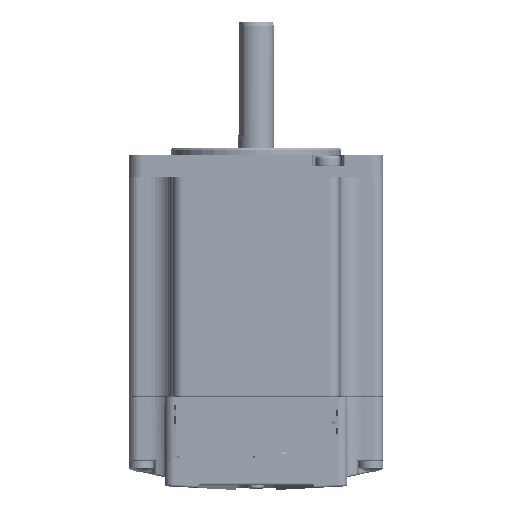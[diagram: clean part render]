
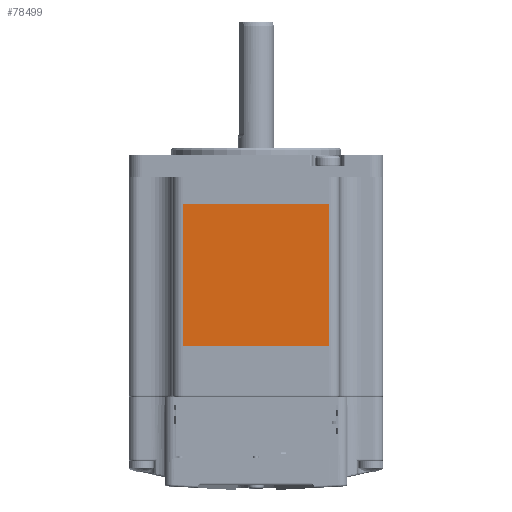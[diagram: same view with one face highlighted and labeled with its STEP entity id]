
A CAD part, left-side view. The second image highlights one B-rep face of the part: STEP entity #78499.
In plain terms, the highlighted planar face has unit normal (-1, 0, 0).
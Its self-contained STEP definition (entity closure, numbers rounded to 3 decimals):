
#69016=DIRECTION('',(0.,1.,0.));
#69017=VECTOR('',#69016,33.);
#69018=CARTESIAN_POINT('',(-28.6,-16.5,-16.));
#69019=LINE('',#69018,#69017);
#71536=DIRECTION('',(0.,0.,1.));
#71537=VECTOR('',#71536,32.);
#71538=CARTESIAN_POINT('',(-28.6,16.5,-16.));
#71539=LINE('',#71538,#71537);
#71540=DIRECTION('',(0.,1.,0.));
#71541=VECTOR('',#71540,33.);
#71542=CARTESIAN_POINT('',(-28.6,-16.5,16.));
#71543=LINE('',#71542,#71541);
#71544=DIRECTION('',(0.,0.,-1.));
#71545=VECTOR('',#71544,32.);
#71546=CARTESIAN_POINT('',(-28.6,-16.5,16.));
#71547=LINE('',#71546,#71545);
#74564=CARTESIAN_POINT('',(-28.6,-16.5,-16.));
#74565=CARTESIAN_POINT('',(-28.6,16.5,-16.));
#74566=VERTEX_POINT('',#74564);
#74567=VERTEX_POINT('',#74565);
#74855=CARTESIAN_POINT('',(-28.6,-16.5,16.));
#74856=VERTEX_POINT('',#74855);
#75030=CARTESIAN_POINT('',(-28.6,16.5,16.));
#75031=VERTEX_POINT('',#75030);
#78487=CARTESIAN_POINT('',(-28.6,-16.5,16.));
#78488=DIRECTION('',(1.,0.,0.));
#78489=DIRECTION('',(0.,0.,-1.));
#78490=AXIS2_PLACEMENT_3D('',#78487,#78488,#78489);
#78491=PLANE('',#78490);
#78492=ORIENTED_EDGE('',*,*,#77220,.T.);
#78493=ORIENTED_EDGE('',*,*,#78482,.T.);
#78494=ORIENTED_EDGE('',*,*,#76060,.F.);
#78496=ORIENTED_EDGE('',*,*,#78495,.T.);
#78497=EDGE_LOOP('',(#78492,#78493,#78494,#78496));
#78498=FACE_OUTER_BOUND('',#78497,.F.);
#78499=ADVANCED_FACE('',(#78498),#78491,.F.);
#76060=EDGE_CURVE('',#74856,#75031,#71543,.T.);
#77220=EDGE_CURVE('',#74566,#74567,#69019,.T.);
#78482=EDGE_CURVE('',#74567,#75031,#71539,.T.);
#78495=EDGE_CURVE('',#74856,#74566,#71547,.T.);
